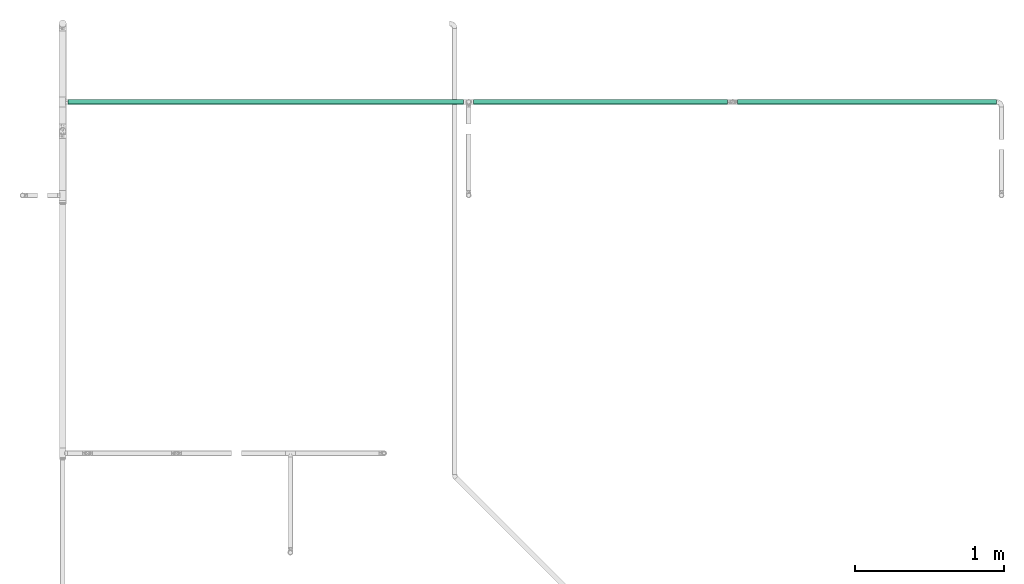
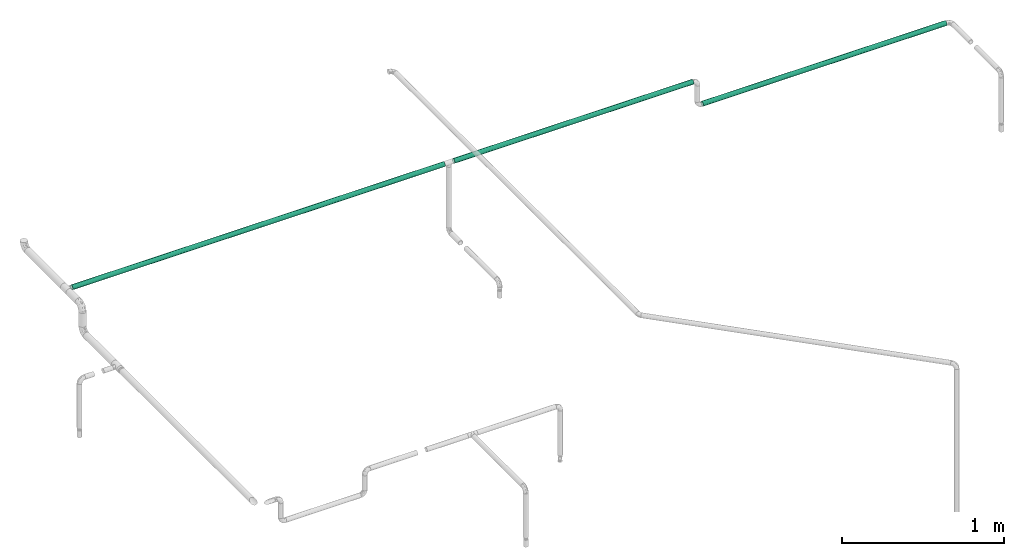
# One storey, part 3 of 17: 3 flow segments.
"""IFC2X3 building model written with IfcOpenShell, lengths in millimetres."""

from ifc_helpers import new_model, entity, si_unit, converted_unit, derived_unit, direction, frame, origin_with_axes, origin_2d_with_axis, place, context, subcontext, project, spatial, hollow_circle, extrude, source, transform, mapped, type_object, element, save


model = new_model("IFC2X3")

# Units and contexts
model_context = context("Model", 3, precision=0.01, world=frame((0.0, 4.29681676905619e-09, 0.0)), true_north=direction((4.01073788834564e-13, 1.0)))
plan_context = context("Plan", 3, precision=0.01, world=frame((0.0, 4.29681676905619e-09, 0.0)), true_north=direction((4.01073788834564e-13, 1.0)))
body_context = subcontext(model_context, "Body", "Model", "MODEL_VIEW")
ifc_project = project(units=[converted_unit("PLANEANGLEUNIT", "DEGREE", entity("IfcPositiveLengthMeasure", 0.0174532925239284), si_unit("PLANEANGLEUNIT", "RADIAN"), dimensions=[0, 0, 0, 0, 0, 0, 0]), si_unit("AREAUNIT", "SQUARE_METRE"), si_unit("LENGTHUNIT", "METRE", prefix="MILLI"), si_unit("MASSUNIT", "GRAM", prefix="KILO"), si_unit("POWERUNIT", "WATT"), si_unit("PRESSUREUNIT", "PASCAL", prefix="KILO"), si_unit("FORCEUNIT", "NEWTON", prefix="KILO"), si_unit("ELECTRICVOLTAGEUNIT", "VOLT"), si_unit("ELECTRICCURRENTUNIT", "AMPERE"), si_unit("THERMODYNAMICTEMPERATUREUNIT", "DEGREE_CELSIUS"), si_unit("TIMEUNIT", "SECOND"), si_unit("VOLUMEUNIT", "CUBIC_METRE"), derived_unit("LINEARVELOCITYUNIT", [(si_unit("LENGTHUNIT", "METRE"), 1), (si_unit("TIMEUNIT", "SECOND"), -1)]), derived_unit("VOLUMETRICFLOWRATEUNIT", [(si_unit("VOLUMEUNIT", "CUBIC_METRE"), 1), (si_unit("TIMEUNIT", "SECOND"), -1)]), derived_unit("THERMALTRANSMITTANCEUNIT", [(si_unit("POWERUNIT", "WATT"), 1), (si_unit("THERMODYNAMICTEMPERATUREUNIT", "KELVIN"), -1), (si_unit("AREAUNIT", "SQUARE_METRE"), -1)]), derived_unit("SOUNDPRESSUREUNIT", [(si_unit("PRESSUREUNIT", "PASCAL"), 1)])], contexts=[model_context, plan_context])

# Site, building, storey
site_placement = place(None, frame((0.0, -4.29681676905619e-09, 0.0), z_axis=(0.0, 0.0, 1.0), x_axis=(1.0, 0.0, 0.0)))
site = spatial("IfcSite", under=ifc_project, at=site_placement, CompositionType="ELEMENT")
building_placement = place(site_placement, frame((0.0, 4.29681676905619e-09, 0.0), z_axis=(0.0, 0.0, 1.0), x_axis=(1.0, 0.0, 0.0)))
building = spatial("IfcBuilding", under=site, at=building_placement, Name="mc-building", CompositionType="ELEMENT")
storey_placement = place(building_placement, frame((0.0, 0.0, 204000.0), z_axis=(0.0, 0.0, 1.0), x_axis=(1.0, 0.0, 0.0)))
storey = spatial("IfcBuildingStorey", under=building, at=storey_placement, Name="Nivå D", CompositionType="ELEMENT", Elevation=204000.0)

# Flow segments
pipe_segment_type = type_object("IfcPipeSegmentType", Name="Stålrør normaltykke", PredefinedType="RIGIDSEGMENT")
shared_shape_1 = source(origin_with_axes(), body_context, "Body", "SweptSolid", [
    extrude(hollow_circle(Radius=16.9, WallThickness=2.0, at=origin_2d_with_axis()), frame((0.0, 0.0, 0.0), z_axis=(1.0, 0.0, 0.0), x_axis=(0.0, 1.0, 0.0)), (0.0, 0.0, 1.0), 2658.0),
])
flow_segment_1_placement = place(storey_placement, frame((596280.96498, 404678.7064, 2980.0), z_axis=(0.0, 0.0, 1.0), x_axis=(1.0, 0.0, 0.0)))
element("IfcFlowSegment", 1, at=flow_segment_1_placement, inside=storey, type_object=pipe_segment_type, Name="Stålrør normaltykke", context=body_context, shape_type="MappedRepresentation", body=[
    mapped(shared_shape_1, transform((0.0, 0.0, 0.0), scale=1.0)),
])
shared_shape_2 = source(origin_with_axes(), body_context, "Body", "SweptSolid", [
    extrude(hollow_circle(Radius=16.9, WallThickness=2.0, at=origin_2d_with_axis()), frame((0.0, 0.0, 0.0), z_axis=(1.0, 0.0, 0.0), x_axis=(0.0, 1.0, 0.0)), (0.0, 0.0, 1.0), 1706.2),
])
flow_segment_2_placement = place(storey_placement, frame((599006.52783, 404678.7064, 2980.0), z_axis=(0.0, 0.0, 1.0), x_axis=(1.0, 0.0, 0.0)))
element("IfcFlowSegment", 2, at=flow_segment_2_placement, inside=storey, type_object=pipe_segment_type, Name="Stålrør normaltykke", context=body_context, shape_type="MappedRepresentation", body=[
    mapped(shared_shape_2, transform((0.0, 0.0, 0.0), scale=1.0)),
])
shared_shape_3 = source(origin_with_axes(), body_context, "Body", "SweptSolid", [
    extrude(hollow_circle(Radius=16.9, WallThickness=2.0, at=origin_2d_with_axis()), frame((0.0, 0.0, 0.0), z_axis=(1.0, 0.0, 0.0), x_axis=(0.0, 1.0, 0.0)), (0.0, 0.0, 1.0), 1738.8),
])
flow_segment_3_placement = place(storey_placement, frame((600780.32783, 404678.69357, 2790.0), z_axis=(0.0, 0.0, 1.0), x_axis=(1.0, 0.0, 0.0)))
element("IfcFlowSegment", 3, at=flow_segment_3_placement, inside=storey, type_object=pipe_segment_type, Name="Stålrør normaltykke", context=body_context, shape_type="MappedRepresentation", body=[
    mapped(shared_shape_3, transform((0.0, 0.0, 0.0), scale=1.0)),
])

save(model, "model.ifc")
